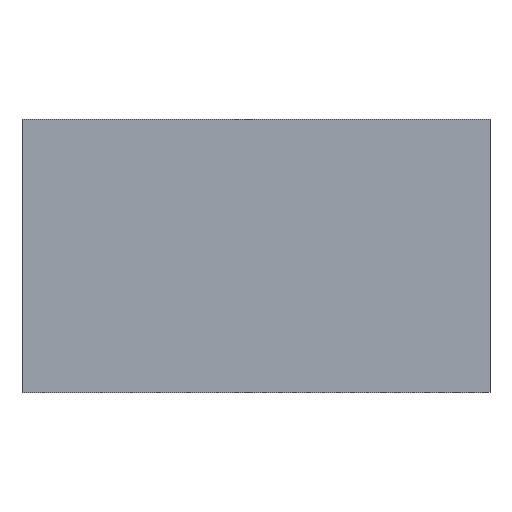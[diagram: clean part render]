
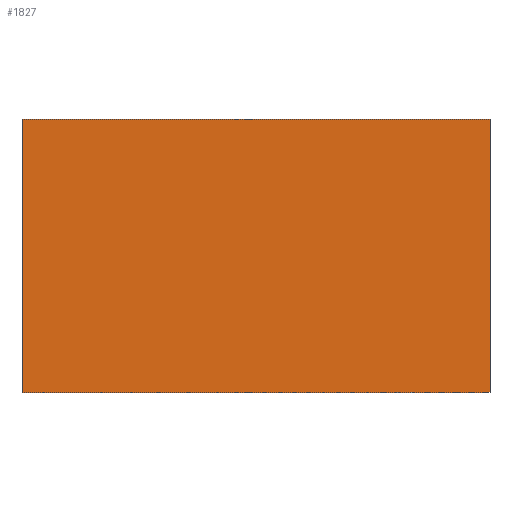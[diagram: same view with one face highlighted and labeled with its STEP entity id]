
A CAD part, front view. The second image highlights one B-rep face of the part: STEP entity #1827.
In plain terms, the highlighted planar face has unit normal (0, -1, 0).
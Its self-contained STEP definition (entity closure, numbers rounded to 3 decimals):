
#223 = CARTESIAN_POINT ( 'NONE',  ( -30., 0., 17.5 ) ) ;
#230 = LINE ( 'NONE', #1074, #1856 ) ;
#413 = DIRECTION ( 'NONE',  ( 0., 0., 1. ) ) ;
#430 = DIRECTION ( 'NONE',  ( 0., 1., 0. ) ) ;
#439 = PLANE ( 'NONE',  #2360 ) ;
#477 = CARTESIAN_POINT ( 'NONE',  ( 0., 0., 0. ) ) ;
#580 = VECTOR ( 'NONE', #660, 1000. ) ;
#651 = CARTESIAN_POINT ( 'NONE',  ( -30., 0., 17.5 ) ) ;
#660 = DIRECTION ( 'NONE',  ( -1., 0., 0. ) ) ;
#683 = DIRECTION ( 'NONE',  ( 1., 0., 0. ) ) ;
#712 = ORIENTED_EDGE ( 'NONE', *, *, #1125, .F. ) ;
#923 = DIRECTION ( 'NONE',  ( 0., 0., -1. ) ) ;
#1023 = LINE ( 'NONE', #1177, #2094 ) ;
#1030 = DIRECTION ( 'NONE',  ( 0., 0., 1. ) ) ;
#1074 = CARTESIAN_POINT ( 'NONE',  ( 30., 0., -17.5 ) ) ;
#1125 = EDGE_CURVE ( 'NONE', #2404, #2591, #230, .T. ) ;
#1127 = LINE ( 'NONE', #2211, #580 ) ;
#1177 = CARTESIAN_POINT ( 'NONE',  ( -30., 0., -17.5 ) ) ;
#1186 = VERTEX_POINT ( 'NONE', #1976 ) ;
#1200 = EDGE_CURVE ( 'NONE', #2591, #1186, #1127, .T. ) ;
#1217 = EDGE_CURVE ( 'NONE', #2012, #2404, #2132, .T. ) ;
#1364 = CARTESIAN_POINT ( 'NONE',  ( 30., 0., -17.5 ) ) ;
#1411 = EDGE_LOOP ( 'NONE', ( #712, #1441, #1851, #1476 ) ) ;
#1441 = ORIENTED_EDGE ( 'NONE', *, *, #1217, .F. ) ;
#1476 = ORIENTED_EDGE ( 'NONE', *, *, #1200, .F. ) ;
#1586 = EDGE_CURVE ( 'NONE', #1186, #2012, #1023, .T. ) ;
#1662 = VECTOR ( 'NONE', #683, 1000. ) ;
#1827 = ADVANCED_FACE ( 'NONE', ( #2043 ), #439, .F. ) ;
#1851 = ORIENTED_EDGE ( 'NONE', *, *, #1586, .F. ) ;
#1856 = VECTOR ( 'NONE', #923, 1000. ) ;
#1976 = CARTESIAN_POINT ( 'NONE',  ( -30., 0., -17.5 ) ) ;
#2012 = VERTEX_POINT ( 'NONE', #223 ) ;
#2043 = FACE_OUTER_BOUND ( 'NONE', #1411, .T. ) ;
#2094 = VECTOR ( 'NONE', #1030, 1000. ) ;
#2132 = LINE ( 'NONE', #651, #1662 ) ;
#2211 = CARTESIAN_POINT ( 'NONE',  ( -30., 0., -17.5 ) ) ;
#2360 = AXIS2_PLACEMENT_3D ( 'NONE', #477, #430, #413 ) ;
#2384 = CARTESIAN_POINT ( 'NONE',  ( 30., 0., 17.5 ) ) ;
#2404 = VERTEX_POINT ( 'NONE', #2384 ) ;
#2591 = VERTEX_POINT ( 'NONE', #1364 ) ;
